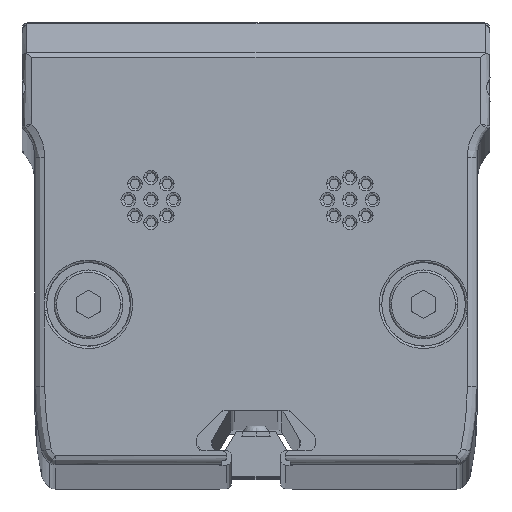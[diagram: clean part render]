
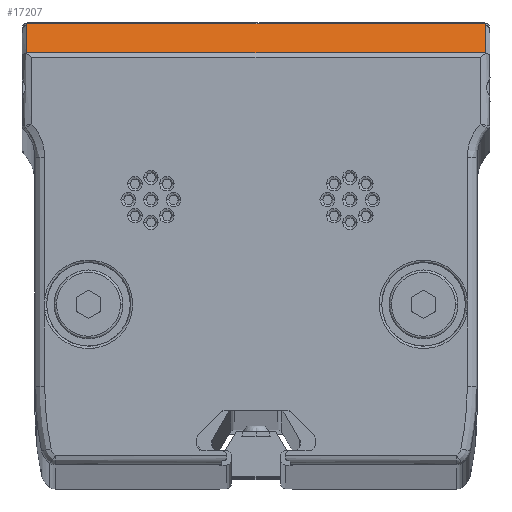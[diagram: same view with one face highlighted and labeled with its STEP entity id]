
A CAD part, top view. The second image highlights one B-rep face of the part: STEP entity #17207.
In plain terms, the highlighted planar face has unit normal (0, 0.858, 0.514).
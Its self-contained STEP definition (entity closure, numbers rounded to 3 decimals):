
#38 = LINE ( 'NONE', #16030, #18213 ) ;
#184 = DIRECTION ( 'NONE',  ( 0., -0.514, 0.857 ) ) ;
#193 = EDGE_LOOP ( 'NONE', ( #14197, #5558, #15529, #25200, #9261, #26370, #6816 ) ) ;
#209 = CARTESIAN_POINT ( 'NONE',  ( 23.215, 22.429, 1379.914 ) ) ;
#219 = CARTESIAN_POINT ( 'NONE',  ( -23.215, 22.429, 1379.914 ) ) ;
#803 = CARTESIAN_POINT ( 'NONE',  ( 23.215, 22.429, 1379.914 ) ) ;
#1216 = LINE ( 'NONE', #14640, #28425 ) ;
#2017 = PLANE ( 'NONE',  #8616 ) ;
#2242 = EDGE_CURVE ( 'NONE', #13580, #23522, #5045, .T. ) ;
#3367 = DIRECTION ( 'NONE',  ( 1., 0., 0. ) ) ;
#3609 = CARTESIAN_POINT ( 'NONE',  ( 23.315, 22.329, 1380.08 ) ) ;
#4197 = VERTEX_POINT ( 'NONE', #12664 ) ;
#5045 =( BOUNDED_CURVE ( )  B_SPLINE_CURVE ( 3, ( #3609, #22300, #19587, #20037 ),
 .UNSPECIFIED., .F., .F. ) 
 B_SPLINE_CURVE_WITH_KNOTS ( ( 4, 4 ),
 ( 4.712, 6.283 ),
 .UNSPECIFIED. ) 
 CURVE ( )  GEOMETRIC_REPRESENTATION_ITEM ( )  RATIONAL_B_SPLINE_CURVE ( ( 1., 0.805, 0.805, 1. ) ) 
 REPRESENTATION_ITEM ( '' )  );
#5215 = CARTESIAN_POINT ( 'NONE',  ( 23.315, 22.329, 1380.08 ) ) ;
#5267 = CARTESIAN_POINT ( 'NONE',  ( 23.82, 19.287, 1385.15 ) ) ;
#5558 = ORIENTED_EDGE ( 'NONE', *, *, #26390, .T. ) ;
#6067 = EDGE_CURVE ( 'NONE', #25824, #19831, #1216, .T. ) ;
#6606 = EDGE_CURVE ( 'NONE', #19831, #21851, #11043, .T. ) ;
#6816 = ORIENTED_EDGE ( 'NONE', *, *, #20231, .T. ) ;
#7750 = CARTESIAN_POINT ( 'NONE',  ( 23.82, 19.433, 1384.907 ) ) ;
#8616 = AXIS2_PLACEMENT_3D ( 'NONE', #5267, #11209, #9100 ) ;
#8793 = VERTEX_POINT ( 'NONE', #16069 ) ;
#8952 = FACE_OUTER_BOUND ( 'NONE', #193, .T. ) ;
#9100 = DIRECTION ( 'NONE',  ( 0., 0.514, -0.857 ) ) ;
#9156 = CARTESIAN_POINT ( 'NONE',  ( -23.315, 22.329, 1380.08 ) ) ;
#9261 = ORIENTED_EDGE ( 'NONE', *, *, #6067, .T. ) ;
#11043 =( BOUNDED_CURVE ( )  B_SPLINE_CURVE ( 3, ( #21009, #19194, #25542, #23426 ),
 .UNSPECIFIED., .F., .T. ) 
 B_SPLINE_CURVE_WITH_KNOTS ( ( 4, 4 ),
 ( 0., 1.571 ),
 .UNSPECIFIED. ) 
 CURVE ( )  GEOMETRIC_REPRESENTATION_ITEM ( )  RATIONAL_B_SPLINE_CURVE ( ( 1., 0.805, 0.805, 1. ) ) 
 REPRESENTATION_ITEM ( '' )  );
#11209 = DIRECTION ( 'NONE',  ( 0., -0.857, -0.514 ) ) ;
#12664 = CARTESIAN_POINT ( 'NONE',  ( -23.315, 19.433, 1384.907 ) ) ;
#13580 = VERTEX_POINT ( 'NONE', #5215 ) ;
#14197 = ORIENTED_EDGE ( 'NONE', *, *, #16978, .T. ) ;
#14640 = CARTESIAN_POINT ( 'NONE',  ( -23.215, 22.429, 1379.914 ) ) ;
#14670 = CARTESIAN_POINT ( 'NONE',  ( 23.215, 22.429, 1379.914 ) ) ;
#14911 = CARTESIAN_POINT ( 'NONE',  ( 23.315, 19.287, 1385.15 ) ) ;
#15529 = ORIENTED_EDGE ( 'NONE', *, *, #2242, .T. ) ;
#16030 = CARTESIAN_POINT ( 'NONE',  ( -23.315, 19.287, 1385.15 ) ) ;
#16069 = CARTESIAN_POINT ( 'NONE',  ( 23.315, 19.433, 1384.907 ) ) ;
#16935 = CARTESIAN_POINT ( 'NONE',  ( 23.215, 22.429, 1379.914 ) ) ;
#16978 = EDGE_CURVE ( 'NONE', #4197, #8793, #25980, .T. ) ;
#17207 = ADVANCED_FACE ( 'NONE', ( #8952 ), #2017, .F. ) ;
#17813 =( BOUNDED_CURVE ( )  B_SPLINE_CURVE ( 3, ( #14670, #803, #16935, #25965 ),
 .UNSPECIFIED., .F., .T. ) 
 B_SPLINE_CURVE_WITH_KNOTS ( ( 4, 4 ),
 ( 6.283, 6.283 ),
 .UNSPECIFIED. ) 
 CURVE ( )  GEOMETRIC_REPRESENTATION_ITEM ( )  RATIONAL_B_SPLINE_CURVE ( ( 1., 1., 1., 1. ) ) 
 REPRESENTATION_ITEM ( '' )  );
#18213 = VECTOR ( 'NONE', #184, 1000. ) ;
#18792 = CARTESIAN_POINT ( 'NONE',  ( 23.215, 22.429, 1379.914 ) ) ;
#18924 = EDGE_CURVE ( 'NONE', #23522, #25824, #17813, .T. ) ;
#19194 = CARTESIAN_POINT ( 'NONE',  ( -23.274, 22.429, 1379.914 ) ) ;
#19587 = CARTESIAN_POINT ( 'NONE',  ( 23.274, 22.429, 1379.914 ) ) ;
#19831 = VERTEX_POINT ( 'NONE', #219 ) ;
#20037 = CARTESIAN_POINT ( 'NONE',  ( 23.215, 22.429, 1379.914 ) ) ;
#20231 = EDGE_CURVE ( 'NONE', #21851, #4197, #38, .T. ) ;
#21009 = CARTESIAN_POINT ( 'NONE',  ( -23.215, 22.429, 1379.914 ) ) ;
#21851 = VERTEX_POINT ( 'NONE', #9156 ) ;
#22300 = CARTESIAN_POINT ( 'NONE',  ( 23.315, 22.387, 1379.983 ) ) ;
#23426 = CARTESIAN_POINT ( 'NONE',  ( -23.315, 22.329, 1380.08 ) ) ;
#23522 = VERTEX_POINT ( 'NONE', #209 ) ;
#23643 = DIRECTION ( 'NONE',  ( 0., 0.514, -0.857 ) ) ;
#23873 = VECTOR ( 'NONE', #23643, 1000. ) ;
#25200 = ORIENTED_EDGE ( 'NONE', *, *, #18924, .T. ) ;
#25542 = CARTESIAN_POINT ( 'NONE',  ( -23.315, 22.387, 1379.983 ) ) ;
#25824 = VERTEX_POINT ( 'NONE', #18792 ) ;
#25965 = CARTESIAN_POINT ( 'NONE',  ( 23.215, 22.429, 1379.914 ) ) ;
#25980 = LINE ( 'NONE', #7750, #27371 ) ;
#26341 = LINE ( 'NONE', #14911, #23873 ) ;
#26370 = ORIENTED_EDGE ( 'NONE', *, *, #6606, .T. ) ;
#26375 = DIRECTION ( 'NONE',  ( -1., 0., 0. ) ) ;
#26390 = EDGE_CURVE ( 'NONE', #8793, #13580, #26341, .T. ) ;
#27371 = VECTOR ( 'NONE', #3367, 1000. ) ;
#28425 = VECTOR ( 'NONE', #26375, 1000. ) ;
